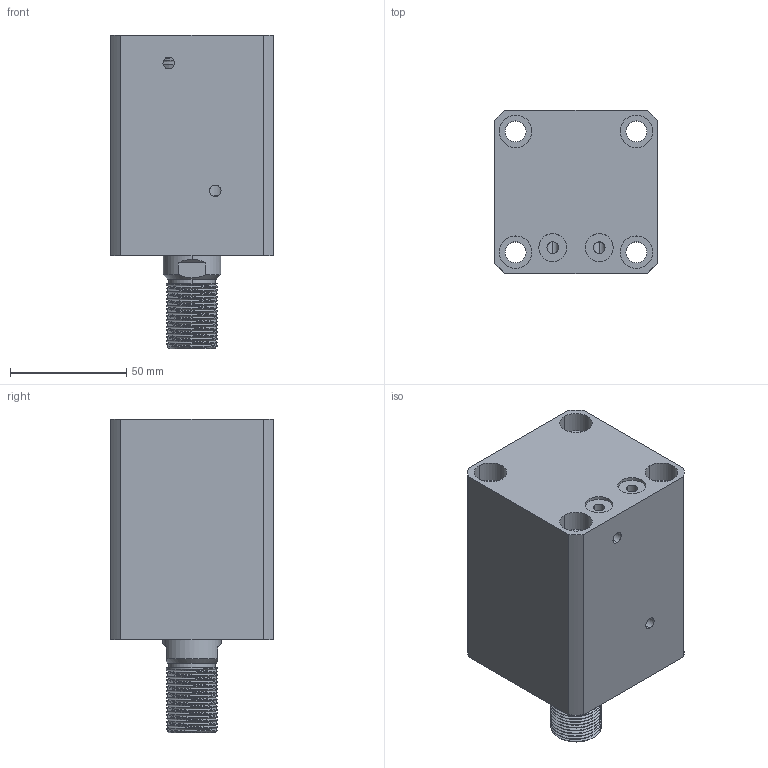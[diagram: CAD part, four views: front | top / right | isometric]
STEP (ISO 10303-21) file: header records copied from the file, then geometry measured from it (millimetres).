
FILE_DESCRIPTION (( 'STEP AP214' ), '1' );
FILE_NAME ('chtb-sdmb40x40w_asm.STEP', '2018-06-07T01:55:40', ( 'Windows' ), ( 'Microsoft' ), 'SwSTEP 2.0', 'SolidWorks 2015', '' );
FILE_SCHEMA (( 'AUTOMOTIVE_DESIGN' ));
Length unit declared in the file: millimetre
Products named in the file (4): CHTB-SDMB40X40NBT; CHTB-SD40X40WHSG; CHTB-SD40QG; chtb-sdmb40x40w_asm
Assembly tree (3 placements, depth 2):
  chtb-sdmb40x40w_asm
    CHTB-SD40QG
    CHTB-SD40X40WHSG
    CHTB-SDMB40X40NBT
Bounding box: 70 x 70 x 135 mm (x, y, z)
Volume: 410043.6 mm3; surface area: 85603.1 mm2
Topology: 3 solids, 4 shells, 201 faces, 539 edges, 359 vertices
Faces by surface type: cylinder 122, plane 38, bspline 16, torus 14, cone 11
Entity records: 13455 total; most frequent: CARTESIAN_POINT 8586, ORIENTED_EDGE 1066, DIRECTION 904, EDGE_CURVE 533, AXIS2_PLACEMENT_3D 374, VERTEX_POINT 359, EDGE_LOOP 238, ADVANCED_FACE 201
